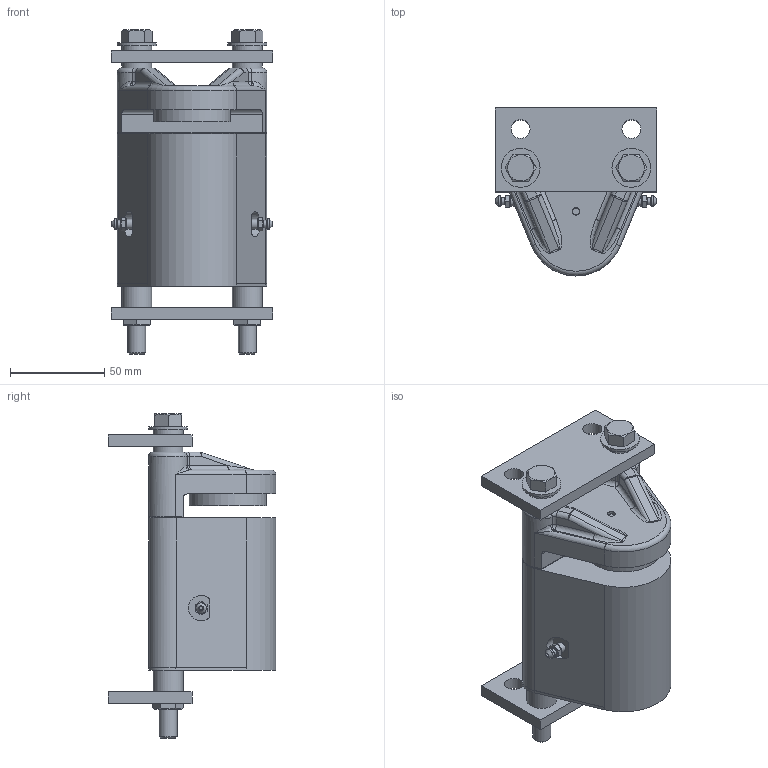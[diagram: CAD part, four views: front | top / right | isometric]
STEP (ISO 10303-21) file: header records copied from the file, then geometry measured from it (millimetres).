
FILE_DESCRIPTION (( 'STEP AP203' ), '1' );
FILE_NAME ('07600000_07600000-475176-1.step', '2024-11-18T13:55:02', ( '' ), ( '' ), 'SwSTEP 2.0', 'SolidWorks 2024', '' );
FILE_SCHEMA (( 'CONFIG_CONTROL_DESIGN' ));
Length unit declared in the file: inch
Products named in the file (2): 07600000_07600000-475176-1; Base_07600000_07600000-475176-1
Assembly tree (1 placements, depth 2):
  07600000_07600000-475176-1
    Base_07600000_07600000-475176-1
Bounding box: 85.85 x 88.9 x 171.91 mm (x, y, z)
Volume: 462621.2 mm3; surface area: 71909.8 mm2
Topology: 1 solids, 10 shells, 382 faces, 870 edges, 558 vertices
Faces by surface type: plane 204, cylinder 92, bspline 36, torus 25, cone 17, sphere 8
Full cylindrical faces by diameter (mm): 1.994 x2, 3.962 x2, 4.013 x1, 4.724 x2, 4.826 x1, 5.156 x1, 5.232 x2, 5.41 x2, 5.588 x2, 8.433 x1, 9.271 x1, 9.525 x8, 9.588 x6, 9.906 x2, 10.084 x6, 10.312 x2, 11.1 x1, 15.875 x6, 20.625 x2, 34.646 x1, 34.671 x1, 40.894 x1, 41.046 x1
Entity records: 12806 total; most frequent: CARTESIAN_POINT 4647, DIRECTION 1580, ORIENTED_EDGE 1508, EDGE_CURVE 754, AXIS2_PLACEMENT_3D 582, EDGE_LOOP 543, VERTEX_POINT 527, FACE_OUTER_BOUND 446
